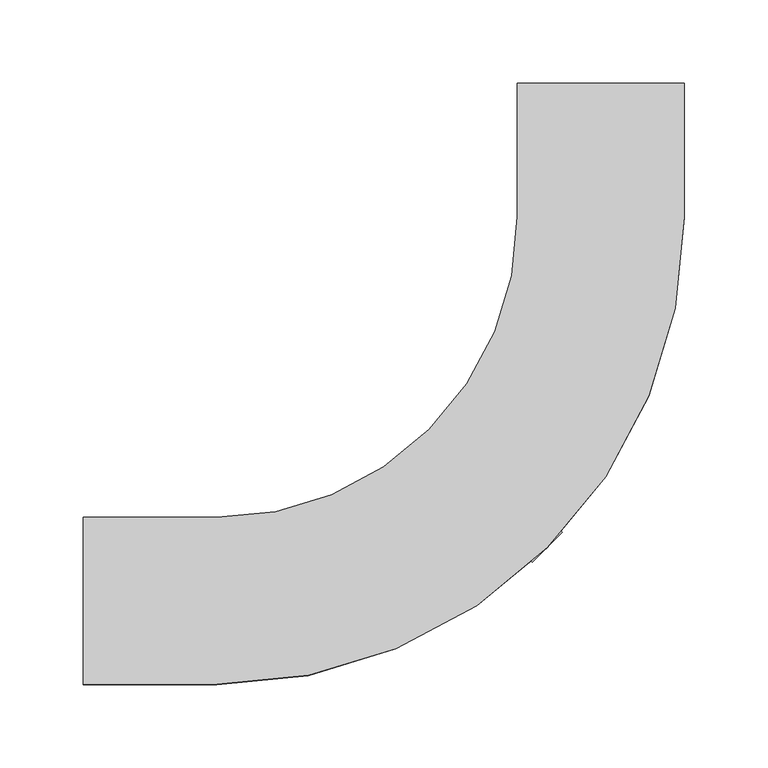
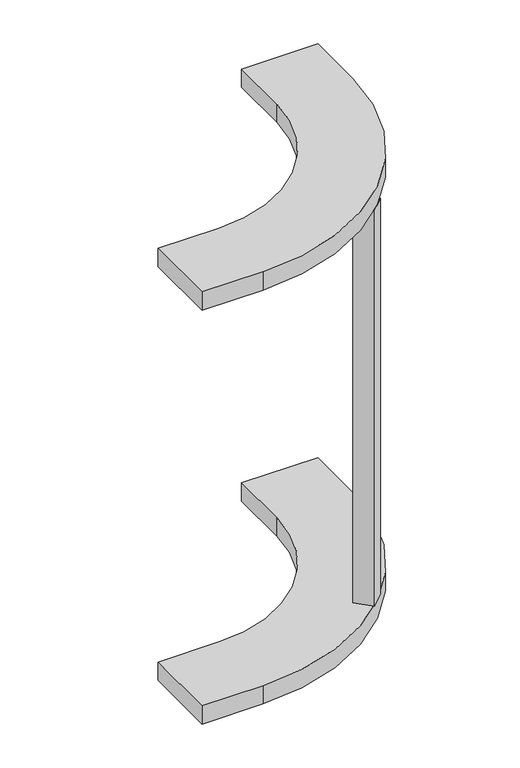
"""IFC4 building model written with IfcOpenShell, lengths in millimetres: cable carrier fitting geometry, Common_はしご垂直内側曲げ : 03 強電_低圧."""

from ifc_helpers import new_model, si_unit, point, frame, frame_2d, origin, place, context, project, spatial, polyline, circle_curve, trimmed, segment, composite_curve, outline, extrude, source, transform, mapped, element, save


def cable_carrier_fitting_95c01ef3(model_context):
    return source(origin(), model_context, "Body", "SweptSolid", [
        extrude(outline(polyline([(-40.9903574, 58.9508696), (-23.0298452, 40.9903574), (-40.9903574, 23.0298452), (-58.9508696, 40.9903574), (-40.9903574, 58.9508696)])), frame((0.0, 0.0, -274.6), z_axis=(0.0, 0.0, 1.0), x_axis=(1.0, 0.0, 0.0)), (0.0, 0.0, 1.0), 549.2),
        extrude(outline(composite_curve([segment(polyline([(-310.0, -50.0), (-310.0, 50.0), (-230.0, 50.0)]), True, "CONTINUOUS"), segment(trimmed(circle_curve(frame_2d((-230.0, 230.0)), 180.0), [point((-230.0, 50.0))], [point((-50.0, 230.0))], True, "CARTESIAN"), True, "CONTINUOUS"), segment(polyline([(-50.0, 230.0), (-50.0, 310.0), (50.0, 310.0), (50.0, 230.0)]), True, "CONTINUOUS"), segment(trimmed(circle_curve(frame_2d((-230.0, 230.0)), 280.0), [point((50.0, 230.0))], [point((-230.0, -50.0))], False, "CARTESIAN"), True, "CONTINUOUS"), segment(polyline([(-230.0, -50.0), (-310.0, -50.0)]), True, "CONTINUOUS")], self_intersect=False)), frame((0.0, 0.0, 274.6), z_axis=(0.0, 0.0, 1.0), x_axis=(1.0, 0.0, 0.0)), (0.0, 0.0, 1.0), 25.4),
        extrude(outline(composite_curve([segment(polyline([(-310.0, -50.0), (-310.0, 50.0), (-230.0, 50.0)]), True, "CONTINUOUS"), segment(trimmed(circle_curve(frame_2d((-230.0, 230.0)), 180.0), [point((-230.0, 50.0))], [point((-50.0, 230.0))], True, "CARTESIAN"), True, "CONTINUOUS"), segment(polyline([(-50.0, 230.0), (-50.0, 310.0), (50.0, 310.0), (50.0, 230.0)]), True, "CONTINUOUS"), segment(trimmed(circle_curve(frame_2d((-230.0, 230.0)), 280.0), [point((50.0, 230.0))], [point((-230.0, -50.0))], False, "CARTESIAN"), True, "CONTINUOUS"), segment(polyline([(-230.0, -50.0), (-310.0, -50.0)]), True, "CONTINUOUS")], self_intersect=False)), frame((0.0, 0.0, -300.0), z_axis=(0.0, 0.0, 1.0), x_axis=(1.0, 0.0, 0.0)), (0.0, 0.0, 1.0), 25.4),
    ])


if __name__ == "__main__":
    model = new_model("IFC4")
    model_context = context("Model", 3, world=origin())
    ifc_project = project(units=[si_unit("LENGTHUNIT", "METRE", prefix="MILLI")], contexts=[model_context])
    site = spatial("IfcSite", under=ifc_project)
    building = spatial("IfcBuilding", under=site)
    placement = place(None, origin())
    cable_carrier_fitting_shape = cable_carrier_fitting_95c01ef3(model_context)
    element("IfcCableCarrierFitting", 1, ObjectType="Common_はしご垂直内側曲げ : 03 強電_低圧", at=placement, inside=building, context=model_context, shape_type="MappedRepresentation", body=[
        mapped(cable_carrier_fitting_shape, transform((0.0, 0.0, 0.0), x_axis=(1.0, 0.0, 0.0), y_axis=(0.0, 1.0, 0.0), z_axis=(0.0, 0.0, 1.0))),
    ])
    save(model, "model.ifc")
